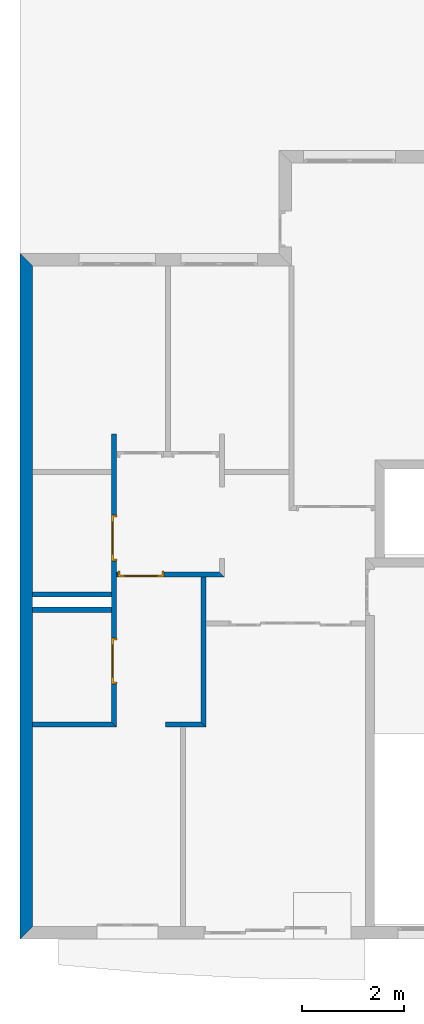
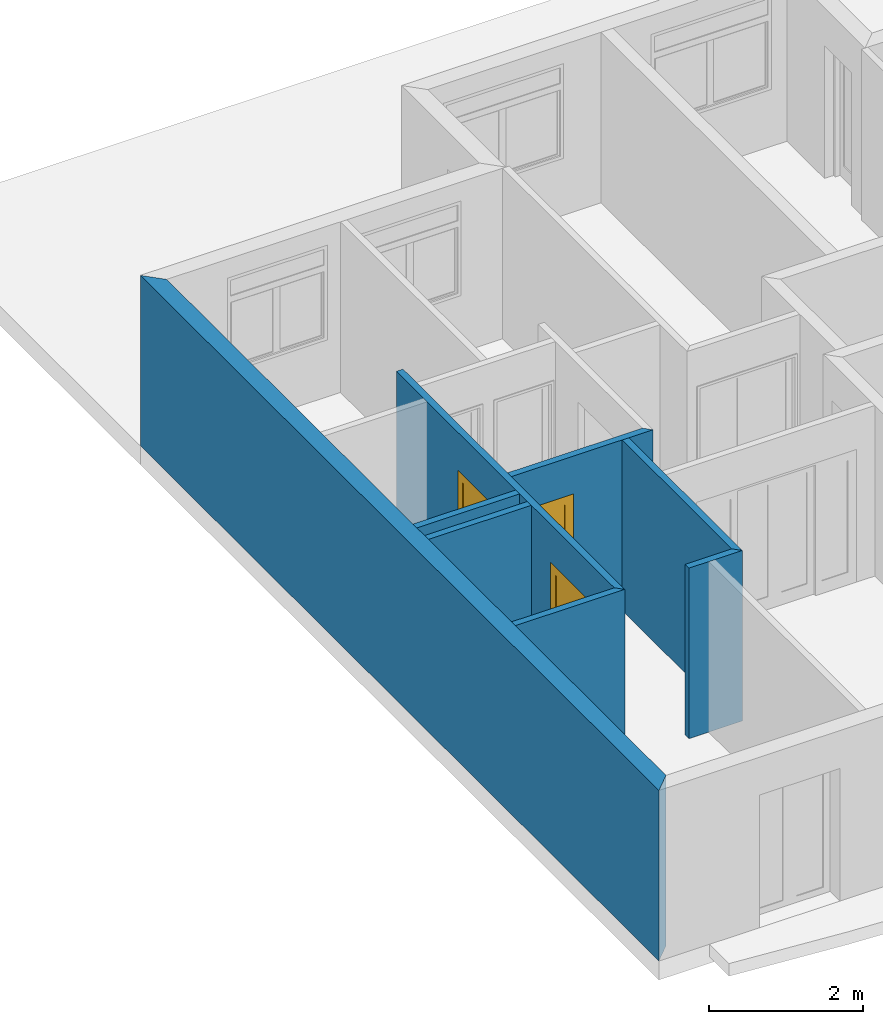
# One storey, part 4 of 12: 8 walls, 3 doors, 3 openings.
"""IFC2X3 building model written with IfcOpenShell, lengths in metres."""

from ifc_helpers import new_model, entity, si_unit, converted_unit, direction, frame, frame_2d, origin_with_axes, place, context, project, spatial, polyline, rectangle, outline, extrude, faceted_brep, source, transform, mapped, material, layer, layer_set, layer_usage, type_object, element, fill, save


model = new_model("IFC2X3")

# Units and contexts
context_of_model = context(None, 3, precision=1e-05, world=origin_with_axes(), true_north=direction((6.123234e-17, 1.0)))
plan_context = context("Plan", 3, precision=1e-05, world=origin_with_axes(), true_north=direction((6.123234e-17, 1.0)))
model_context = context("Model", 3, precision=1e-05, world=origin_with_axes(), true_north=direction((6.123234e-17, 1.0)))
ifc_project = project(units=[si_unit("LENGTHUNIT", "METRE"), si_unit("AREAUNIT", "SQUARE_METRE"), si_unit("VOLUMEUNIT", "CUBIC_METRE"), converted_unit("PLANEANGLEUNIT", "DEGREE", entity("IfcPlaneAngleMeasure", 0.017453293), si_unit("PLANEANGLEUNIT", "RADIAN"), dimensions=[0, 0, 0, 0, 0, 0, 0]), si_unit("SOLIDANGLEUNIT", "STERADIAN"), si_unit("MASSUNIT", "GRAM"), si_unit("TIMEUNIT", "SECOND"), si_unit("THERMODYNAMICTEMPERATUREUNIT", "DEGREE_CELSIUS"), si_unit("LUMINOUSINTENSITYUNIT", "LUMEN")], contexts=[context_of_model, plan_context, model_context])

# Site, building, storey
site_placement = place(None, origin_with_axes())
site = spatial("IfcSite", under=ifc_project, at=site_placement, Name="Por defecto Sitio", CompositionType="ELEMENT")
building_placement = place(site_placement, origin_with_axes())
building = spatial("IfcBuilding", under=site, at=building_placement, Name="Por defecto Edificio", CompositionType="ELEMENT")
storey_placement = place(building_placement, frame((0.0, 0.0, 4.2), z_axis=(0.0, 0.0, 1.0), x_axis=(1.0, 0.0, 0.0)))
storey = spatial("IfcBuildingStorey", under=building, at=storey_placement, Name="Primera", CompositionType="ELEMENT", Elevation=4.2)

# Walls
ifc_material_1 = material(Name="Doble 1:4")
ifc_layer_1 = layer(ifc_material_1, 0.25, ventilated="UNKNOWN")
ifc_layer_set_1 = layer_set([ifc_layer_1], Name="Doble 1:4")
ifc_layer_usage_1 = layer_usage(ifc_layer_set_1, "AXIS2", "NEGATIVE", 0.0)
wall_type_1 = type_object("IfcWallType", Name="Doble 1:4", PredefinedType="NOTDEFINED")
wall_1_placement = place(storey_placement, frame((0.0, 0.0, 0.0), z_axis=(0.0, 0.0, 1.0), x_axis=(0.0, 1.0, 0.0)))
element("IfcWallStandardCase", 1, at=wall_1_placement, inside=storey, type_object=wall_type_1, material=ifc_layer_usage_1, Name="Muro-011", context=context_of_model, shape_type="SweptSolid", body=[
    extrude(outline(polyline([(0.25, -0.25), (13.199173, -0.25), (13.449173, 0.0), (0.0, 0.0), (0.25, -0.25)])), origin_with_axes(), (0.0, 0.0, 1.0), 2.7),
])
ifc_material_2 = material(Name="Ladrillo común")
ifc_layer_2 = layer(ifc_material_2, 0.1, ventilated="UNKNOWN")
ifc_layer_set_2 = layer_set([ifc_layer_2], Name="Ladrillo común")
ifc_layer_usage_2 = layer_usage(ifc_layer_set_2, "AXIS2", "POSITIVE", 0.0)
wall_type_2 = type_object("IfcWallType", Name="Ladrillo común", PredefinedType="NOTDEFINED")
wall_2_placement = place(storey_placement, frame((0.0, 4.1588613, 0.0), z_axis=(0.0, 0.0, 1.0), x_axis=(1.0, 0.0, 0.0)))
element("IfcWallStandardCase", 2, at=wall_2_placement, inside=storey, type_object=wall_type_2, material=ifc_layer_usage_2, Name="Muro-020", context=context_of_model, shape_type="SweptSolid", body=[
    extrude(outline(polyline([(0.25, 0.0), (1.8901652, 0.0), (1.7901652, 0.1), (0.25, 0.1), (0.25, 0.0)])), origin_with_axes(), (0.0, 0.0, 1.0), 2.7),
])
ifc_layer_usage_3 = layer_usage(ifc_layer_set_2, "AXIS2", "POSITIVE", 0.0)
wall_3_placement = place(storey_placement, frame((3.6501652, 4.1588613, 0.0), z_axis=(0.0, 0.0, 1.0), x_axis=(0.0, 1.0, 0.0)))
element("IfcWallStandardCase", 3, at=wall_3_placement, inside=storey, type_object=wall_type_2, material=ifc_layer_usage_3, Name="Muro-021", context=context_of_model, shape_type="SweptSolid", body=[
    extrude(outline(polyline([(0.0, 0.0), (2.9433401, 0.0), (2.9433401, 0.1), (0.1, 0.1), (0.0, 0.0)])), origin_with_axes(), (0.0, 0.0, 1.0), 2.7),
])

# Wall, opening, door
ifc_layer_usage_4 = layer_usage(ifc_layer_set_2, "AXIS2", "NEGATIVE", 0.0)
wall_4_placement = place(storey_placement, frame((1.8901652, 7.2022014, 0.0), z_axis=(0.0, 0.0, 1.0), x_axis=(1.0, 0.0, 0.0)))
wall_4 = element("IfcWallStandardCase", 4, at=wall_4_placement, inside=storey, type_object=wall_type_2, material=ifc_layer_usage_4, Name="Muro-024", context=context_of_model, shape_type="SweptSolid", body=[
    extrude(outline(polyline([(0.0, -0.1), (2.12, -0.1), (2.02, 0.0), (0.0, 0.0), (0.0, -0.1)])), origin_with_axes(), (0.0, 0.0, 1.0), 2.7),
])
opening_1_placement = place(wall_4_placement, frame((0.48089372, -0.1, 0.0), z_axis=(0.0, 0.0, 1.0), x_axis=(1.0, 0.0, 0.0)))
opening_1 = element("IfcOpeningElement", 5, at=opening_1_placement, cuts=wall_4, ObjectType="Opening", context=model_context, shape_type="SweptSolid", body=[
    extrude(rectangle(XDim=0.9, YDim=2.1, at=frame_2d((-1.110223e-16, 1.05), x_axis=(-1.0, 0.0))), frame((0.0, 0.0, 0.0), z_axis=(0.0, 1.0, 0.0), x_axis=(-1.0, 0.0, 0.0)), (0.0, 0.0, 1.0), 0.1),
])
door_style_1 = type_object("IfcDoorStyle", Name="P1 12", ConstructionType="NOTDEFINED", OperationType="SINGLE_SWING_LEFT", ParameterTakesPrecedence=False, Sizeable=False)
shared_shape_1 = source(origin_with_axes(), model_context, "Body", "Brep", [
    faceted_brep([(0.86, 0.075, -3.6739404e-18), (0.86, 0.0, 9.184851e-19), (0.86, 0.0, 2.06), (0.86, 0.075, 2.06), (0.872, 0.075, -3.6739404e-18), (0.872, 0.115, -6.123234e-18), (0.9, 0.115, -6.123234e-18), (0.9, 0.0, 9.184851e-19), (0.9, 0.0, 2.06), (0.872, 0.075, 2.06), (0.9, 0.115, 2.06), (0.872, 0.115, 2.06)], [[[0, 1, 2, 3]], [[4, 5, 6, 7, 1, 0]], [[7, 8, 2, 1]], [[9, 3, 2, 8, 10, 11]], [[9, 4, 0, 3]], [[11, 5, 4, 9]], [[11, 10, 6, 5]], [[8, 7, 6, 10]]]),
    faceted_brep([(0.028, 0.075, 2.06), (0.028, 0.115, 2.06), (0.0, 0.115, 2.06), (0.0, 0.0, 2.06), (0.04, 0.0, 2.06), (0.04, 0.075, 2.06), (0.028, 0.075, -3.6739404e-18), (0.028, 0.115, -6.123234e-18), (0.0, 0.115, -6.123234e-18), (0.0, 0.0, 0.0), (0.04, 0.0, 9.184851e-19), (0.04, 0.075, -3.6739404e-18)], [[[0, 1, 2, 3, 4, 5]], [[0, 6, 7, 1]], [[7, 8, 2, 1]], [[9, 3, 2, 8]], [[10, 4, 3, 9]], [[5, 4, 10, 11]], [[5, 11, 6, 0]], [[6, 11, 10, 9, 8, 7]]]),
    faceted_brep([(0.872, 0.115, 2.072), (0.028, 0.115, 2.072), (0.028, 0.115, 2.06), (0.0, 0.115, 2.06), (0.0, 0.115, 2.1), (0.9, 0.115, 2.1), (0.9, 0.115, 2.06), (0.872, 0.115, 2.06), (0.872, 0.075, 2.072), (0.028, 0.075, 2.072), (0.028, 0.075, 2.06), (0.04, 0.075, 2.06), (0.04, 0.0, 2.06), (0.0, 0.0, 2.06), (0.0, 0.0, 2.1), (0.9, 0.0, 2.1), (0.9, 0.0, 2.06), (0.872, 0.075, 2.06), (0.86, 0.0, 2.06), (0.86, 0.075, 2.06)], [[[0, 1, 2, 3, 4, 5, 6, 7]], [[0, 8, 9, 1]], [[1, 9, 10, 2]], [[10, 11, 12, 13, 3, 2]], [[13, 14, 4, 3]], [[14, 15, 5, 4]], [[15, 16, 6, 5]], [[17, 7, 6, 16, 18, 19]], [[7, 17, 8, 0]], [[10, 9, 8, 17, 19, 11]], [[19, 18, 12, 11]], [[14, 13, 12, 18, 16, 15]]]),
    faceted_brep([(0.028, 0.115, 0.2), (0.128, 0.115, 0.2), (0.128, 0.075, 0.2), (0.028, 0.075, 0.2), (0.028, 0.115, 1.972), (0.128, 0.115, 1.972), (0.128, 0.075, 1.972), (0.028, 0.075, 1.972)], [[[0, 1, 2, 3]], [[0, 4, 5, 1]], [[1, 5, 6, 2]], [[3, 2, 6, 7]], [[4, 0, 3, 7]], [[5, 4, 7, 6]]]),
    faceted_brep([(0.872, 0.115, 0.2), (0.872, 0.115, 1.972), (0.872, 0.075, 1.972), (0.872, 0.075, 0.2), (0.772, 0.115, 0.2), (0.772, 0.115, 1.972), (0.772, 0.075, 1.972), (0.772, 0.075, 0.2)], [[[0, 1, 2, 3]], [[0, 4, 5, 1]], [[1, 5, 6, 2]], [[3, 2, 6, 7]], [[4, 0, 3, 7]], [[5, 4, 7, 6]]]),
    faceted_brep([(0.028, 0.115, -6.123234e-18), (0.872, 0.115, -6.123234e-18), (0.872, 0.075, -3.6739404e-18), (0.028, 0.075, -3.6739404e-18), (0.028, 0.115, 0.2), (0.128, 0.115, 0.2), (0.772, 0.115, 0.2), (0.872, 0.115, 0.2), (0.872, 0.075, 0.2), (0.772, 0.075, 0.2), (0.128, 0.075, 0.2), (0.028, 0.075, 0.2)], [[[0, 1, 2, 3]], [[0, 4, 5, 6, 7, 1]], [[1, 7, 8, 2]], [[3, 2, 8, 9, 10, 11]], [[4, 0, 3, 11]], [[5, 4, 11, 10]], [[6, 5, 10, 9]], [[7, 6, 9, 8]]]),
    faceted_brep([(0.028, 0.115, 2.072), (0.028, 0.115, 1.972), (0.028, 0.075, 1.972), (0.028, 0.075, 2.072), (0.872, 0.115, 2.072), (0.872, 0.115, 1.972), (0.772, 0.115, 1.972), (0.128, 0.115, 1.972), (0.128, 0.075, 1.972), (0.772, 0.075, 1.972), (0.872, 0.075, 1.972), (0.872, 0.075, 2.072)], [[[0, 1, 2, 3]], [[0, 4, 5, 6, 7, 1]], [[1, 7, 8, 2]], [[3, 2, 8, 9, 10, 11]], [[4, 0, 3, 11]], [[5, 4, 11, 10]], [[6, 5, 10, 9]], [[7, 6, 9, 8]]]),
    faceted_brep([(0.128, 0.101, 0.2), (0.772, 0.101, 0.2), (0.772, 0.089, 0.2), (0.128, 0.089, 0.2), (0.128, 0.101, 1.972), (0.772, 0.101, 1.972), (0.772, 0.089, 1.972), (0.128, 0.089, 1.972)], [[[0, 1, 2, 3]], [[0, 4, 5, 1]], [[1, 5, 6, 2]], [[3, 2, 6, 7]], [[4, 0, 3, 7]], [[5, 4, 7, 6]]]),
])
door_1_placement = place(opening_1_placement, frame((0.45, 0.115, 0.0), z_axis=(0.0, 0.0, 1.0), x_axis=(-1.0, 0.0, 0.0)))
door_1 = element("IfcDoor", 6, at=door_1_placement, inside=storey, type_object=door_style_1, Name="P17", OverallHeight=2.1, OverallWidth=0.9, context=model_context, shape_type="MappedRepresentation", body=[
    mapped(shared_shape_1, transform((0.0, 0.0, 0.0), scale=1.0)),
])
fill(opening_1, door_1)

# Wall, openings, doors
ifc_layer_usage_5 = layer_usage(ifc_layer_set_2, "AXIS2", "NEGATIVE", 0.0)
wall_5_placement = place(storey_placement, frame((1.8901652, 9.9109196, 0.0), z_axis=(0.0, 0.0, 1.0), x_axis=(0.0, -1.0, 0.0)))
wall_5 = element("IfcWallStandardCase", 7, at=wall_5_placement, inside=storey, type_object=wall_type_2, material=ifc_layer_usage_5, Name="Muro-034", context=context_of_model, shape_type="SweptSolid", body=[
    extrude(outline(polyline([(0.0, -0.1), (5.6520584, -0.1), (5.7520584, 0.0), (0.0, 0.0), (0.0, -0.1)])), origin_with_axes(), (0.0, 0.0, 1.0), 2.7),
])
opening_2_placement = place(wall_5_placement, frame((4.45317, -0.1, 0.0), z_axis=(0.0, 0.0, 1.0), x_axis=(1.0, 0.0, 0.0)))
opening_2 = element("IfcOpeningElement", 8, at=opening_2_placement, cuts=wall_5, ObjectType="Opening", context=model_context, shape_type="SweptSolid", body=[
    extrude(rectangle(XDim=0.9, YDim=2.1, at=frame_2d((0.0, 1.05), x_axis=(-1.0, 0.0))), frame((0.0, 0.0, 0.0), z_axis=(0.0, 1.0, 0.0), x_axis=(-1.0, 0.0, 0.0)), (0.0, 0.0, 1.0), 0.1),
])
opening_3_placement = place(wall_5_placement, frame((2.0425457, -0.1, 0.0), z_axis=(0.0, 0.0, 1.0), x_axis=(1.0, 0.0, 0.0)))
opening_3 = element("IfcOpeningElement", 9, at=opening_3_placement, cuts=wall_5, ObjectType="Opening", context=model_context, shape_type="SweptSolid", body=[
    extrude(rectangle(XDim=0.9, YDim=2.1, at=frame_2d((0.0, 1.05), x_axis=(-1.0, 0.0))), frame((0.0, 0.0, 0.0), z_axis=(0.0, 1.0, 0.0), x_axis=(-1.0, 0.0, 0.0)), (0.0, 0.0, 1.0), 0.1),
])
door_style_2 = type_object("IfcDoorStyle", Name="P1 12", ConstructionType="NOTDEFINED", OperationType="SINGLE_SWING_RIGHT", ParameterTakesPrecedence=False, Sizeable=False)
shared_shape_2 = source(origin_with_axes(), model_context, "Body", "Brep", [
    faceted_brep([(0.04, 0.075, -2.4492936e-18), (0.04, 0.075, 2.06), (0.04, -9.3258734e-14, 2.06), (0.04, -9.3258734e-14, -7.0417191e-18), (0.028, 0.075, 2.06), (0.028, 0.075, -2.4492936e-18), (0.028, 0.115, 2.06), (2.220446e-16, 0.115, 2.06), (1.7763568e-15, -9.4146912e-14, 2.06), (0.0, 0.0, 0.0), (2.220446e-16, 0.115, 3.3744595e-33), (0.028, 0.115, 3.2707143e-33)], [[[0, 1, 2, 3]], [[4, 1, 0, 5]], [[4, 6, 7, 8, 2, 1]], [[9, 3, 2, 8]], [[5, 0, 3, 9, 10, 11]], [[6, 4, 5, 11]], [[6, 11, 10, 7]], [[8, 7, 10, 9]]]),
    faceted_brep([(0.872, 0.075, 2.06), (0.86, 0.075, 2.06), (0.86, -8.0824236e-14, 2.06), (0.9, -7.9936058e-14, 2.06), (0.9, 0.115, 2.06), (0.872, 0.115, 2.06), (0.872, 0.075, -2.4492936e-18), (0.86, 0.075, -2.4492936e-18), (0.86, -8.0824236e-14, -7.0417191e-18), (0.9, -7.9936058e-14, -7.0417191e-18), (0.9, 0.115, -3.3744595e-33), (0.872, 0.115, -3.1644931e-33)], [[[0, 1, 2, 3, 4, 5]], [[1, 0, 6, 7]], [[1, 7, 8, 2]], [[8, 9, 3, 2]], [[9, 10, 4, 3]], [[11, 5, 4, 10]], [[0, 5, 11, 6]], [[6, 11, 10, 9, 8, 7]]]),
    faceted_brep([(0.028, 0.115, 2.072), (0.028, 0.115, 2.06), (2.220446e-16, 0.115, 2.06), (2.220446e-16, 0.115, 2.1), (0.9, 0.115, 2.1), (0.9, 0.115, 2.06), (0.872, 0.115, 2.06), (0.872, 0.115, 2.072), (0.028, 0.075, 2.072), (0.028, 0.075, 2.06), (0.04, 0.075, 2.06), (0.04, -9.3258734e-14, 2.06), (1.7763568e-15, -9.4146912e-14, 2.06), (1.7763568e-15, -9.4146912e-14, 2.1), (0.9, -7.9936058e-14, 2.1), (0.9, -7.9936058e-14, 2.06), (0.872, 0.075, 2.06), (0.86, -8.0824236e-14, 2.06), (0.86, 0.075, 2.06), (0.872, 0.075, 2.072)], [[[0, 1, 2, 3, 4, 5, 6, 7]], [[1, 0, 8, 9]], [[9, 10, 11, 12, 2, 1]], [[13, 3, 2, 12]], [[14, 4, 3, 13]], [[15, 5, 4, 14]], [[16, 6, 5, 15, 17, 18]], [[7, 6, 16, 19]], [[0, 7, 19, 8]], [[16, 18, 10, 9, 8, 19]], [[10, 18, 17, 11]], [[14, 13, 12, 11, 17, 15]]]),
    faceted_brep([(0.872, 0.115, 0.2), (0.872, 0.075, 0.2), (0.772, 0.075, 0.2), (0.772, 0.115, 0.2), (0.872, 0.115, 1.972), (0.872, 0.075, 1.972), (0.772, 0.075, 1.972), (0.772, 0.115, 1.972)], [[[0, 1, 2, 3]], [[4, 5, 1, 0]], [[1, 5, 6, 2]], [[3, 2, 6, 7]], [[0, 3, 7, 4]], [[7, 6, 5, 4]]]),
    faceted_brep([(0.028, 0.115, 0.2), (0.028, 0.075, 0.2), (0.028, 0.075, 1.972), (0.028, 0.115, 1.972), (0.128, 0.115, 0.2), (0.128, 0.075, 0.2), (0.128, 0.075, 1.972), (0.128, 0.115, 1.972)], [[[0, 1, 2, 3]], [[4, 5, 1, 0]], [[1, 5, 6, 2]], [[3, 2, 6, 7]], [[0, 3, 7, 4]], [[7, 6, 5, 4]]]),
    faceted_brep([(0.872, 0.115, -3.1644931e-33), (0.872, 0.075, -2.4492936e-18), (0.028, 0.075, -2.4492936e-18), (0.028, 0.115, 3.1644931e-33), (0.872, 0.115, 0.2), (0.872, 0.075, 0.2), (0.772, 0.075, 0.2), (0.128, 0.075, 0.2), (0.028, 0.075, 0.2), (0.028, 0.115, 0.2), (0.128, 0.115, 0.2), (0.772, 0.115, 0.2)], [[[0, 1, 2, 3]], [[4, 5, 1, 0]], [[1, 5, 6, 7, 8, 2]], [[3, 2, 8, 9]], [[0, 3, 9, 10, 11, 4]], [[11, 6, 5, 4]], [[10, 7, 6, 11]], [[9, 8, 7, 10]]]),
    faceted_brep([(0.872, 0.115, 2.072), (0.872, 0.075, 2.072), (0.872, 0.075, 1.972), (0.872, 0.115, 1.972), (0.028, 0.115, 2.072), (0.028, 0.075, 2.072), (0.028, 0.075, 1.972), (0.128, 0.075, 1.972), (0.772, 0.075, 1.972), (0.772, 0.115, 1.972), (0.128, 0.115, 1.972), (0.028, 0.115, 1.972)], [[[0, 1, 2, 3]], [[4, 5, 1, 0]], [[1, 5, 6, 7, 8, 2]], [[3, 2, 8, 9]], [[0, 3, 9, 10, 11, 4]], [[11, 6, 5, 4]], [[10, 7, 6, 11]], [[9, 8, 7, 10]]]),
    faceted_brep([(0.772, 0.101, 0.2), (0.772, 0.089, 0.2), (0.128, 0.089, 0.2), (0.128, 0.101, 0.2), (0.772, 0.101, 1.972), (0.772, 0.089, 1.972), (0.128, 0.089, 1.972), (0.128, 0.101, 1.972)], [[[0, 1, 2, 3]], [[4, 5, 1, 0]], [[1, 5, 6, 2]], [[3, 2, 6, 7]], [[0, 3, 7, 4]], [[7, 6, 5, 4]]]),
])
door_2_placement = place(opening_3_placement, frame((0.45, 0.115, 0.0), z_axis=(0.0, 0.0, 1.0), x_axis=(-1.0, 0.0, 0.0)))
door_2 = element("IfcDoor", 10, at=door_2_placement, inside=storey, type_object=door_style_2, Name="P19", OverallHeight=2.1, OverallWidth=0.9, context=model_context, shape_type="MappedRepresentation", body=[
    mapped(shared_shape_2, transform((0.0, 0.0, 0.0), scale=1.0)),
])
fill(opening_3, door_2)
door_style_3 = type_object("IfcDoorStyle", Name="P1 12", ConstructionType="NOTDEFINED", OperationType="SINGLE_SWING_LEFT", ParameterTakesPrecedence=False, Sizeable=False)
door_3_placement = place(opening_2_placement, frame((0.45, 0.115, 0.0), z_axis=(0.0, 0.0, 1.0), x_axis=(-1.0, 0.0, 0.0)))
door_3 = element("IfcDoor", 11, at=door_3_placement, inside=storey, type_object=door_style_3, Name="P18", OverallHeight=2.1, OverallWidth=0.9, context=model_context, shape_type="MappedRepresentation", body=[
    mapped(shared_shape_1, transform((0.0, 0.0, 0.0), scale=1.0)),
])
fill(opening_2, door_3)

# Walls
ifc_layer_usage_6 = layer_usage(ifc_layer_set_2, "AXIS2", "POSITIVE", 0.0)
wall_6_placement = place(storey_placement, frame((1.8901652, 6.8112172, 0.0), z_axis=(0.0, 0.0, 1.0), x_axis=(-1.0, 0.0, 0.0)))
element("IfcWallStandardCase", 12, at=wall_6_placement, inside=storey, type_object=wall_type_2, material=ifc_layer_usage_6, Name="Muro-035", context=context_of_model, shape_type="SweptSolid", body=[
    extrude(outline(polyline([(0.1, 0.0), (1.6401652, 0.0), (1.6401652, 0.1), (0.1, 0.1), (0.1, 0.0)])), origin_with_axes(), (0.0, 0.0, 1.0), 2.7),
])
ifc_layer_usage_7 = layer_usage(ifc_layer_set_2, "AXIS2", "NEGATIVE", 0.0)
wall_7_placement = place(storey_placement, frame((1.8901652, 6.4112172, 0.0), z_axis=(0.0, 0.0, 1.0), x_axis=(-1.0, 0.0, 0.0)))
element("IfcWallStandardCase", 13, at=wall_7_placement, inside=storey, type_object=wall_type_2, material=ifc_layer_usage_7, Name="Muro-036", context=context_of_model, shape_type="SweptSolid", body=[
    extrude(outline(polyline([(0.1, -0.1), (1.6401652, -0.1), (1.6401652, 0.0), (0.1, 0.0), (0.1, -0.1)])), origin_with_axes(), (0.0, 0.0, 1.0), 2.7),
])
ifc_layer_usage_8 = layer_usage(ifc_layer_set_2, "AXIS2", "NEGATIVE", 0.0)
wall_8_placement = place(storey_placement, frame((3.6501652, 4.1588613, 0.0), z_axis=(0.0, 0.0, 1.0), x_axis=(-1.0, 0.0, 0.0)))
element("IfcWallStandardCase", 14, at=wall_8_placement, inside=storey, type_object=wall_type_2, material=ifc_layer_usage_8, Name="Muro-020", context=context_of_model, shape_type="SweptSolid", body=[
    extrude(outline(polyline([(0.1, -0.1), (0.8, -0.1), (0.8, 0.0), (0.0, 0.0), (0.1, -0.1)])), origin_with_axes(), (0.0, 0.0, 1.0), 2.7),
])

save(model, "model.ifc")
